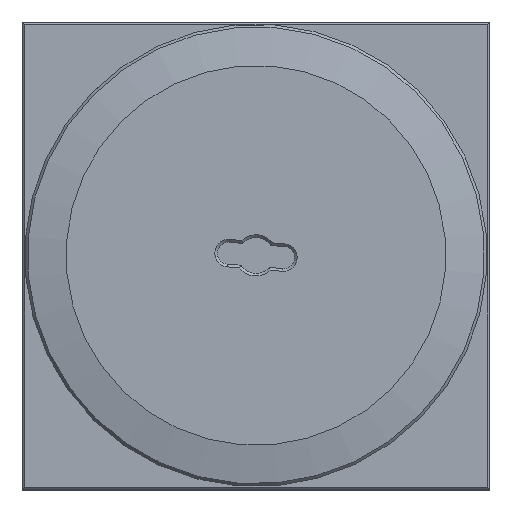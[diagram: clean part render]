
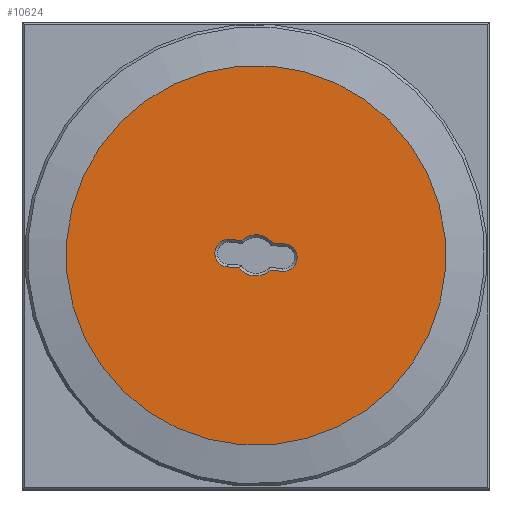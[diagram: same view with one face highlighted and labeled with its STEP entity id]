
A CAD part, top view. The second image highlights one B-rep face of the part: STEP entity #10624.
In plain terms, the highlighted planar face has unit normal (0, 0, 1).
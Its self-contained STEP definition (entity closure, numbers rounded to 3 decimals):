
#786=FACE_BOUND('',#3870,.T.);
#1016=PLANE('',#11739);
#1734=LINE('',#28254,#2439);
#1737=LINE('',#28275,#2442);
#1739=LINE('',#28287,#2444);
#1742=LINE('',#28305,#2447);
#2439=VECTOR('',#14273,10.);
#2442=VECTOR('',#14284,10.);
#2444=VECTOR('',#14294,10.);
#2447=VECTOR('',#14311,10.);
#3191=FACE_OUTER_BOUND('',#3869,.T.);
#3869=EDGE_LOOP('',(#9923));
#3870=EDGE_LOOP('',(#9924,#9925,#9926,#9927,#9928,#9929,#9930,#9931));
#4327=CIRCLE('',#11719,7.5);
#4329=CIRCLE('',#11723,5.);
#4332=CIRCLE('',#11728,7.5);
#4333=CIRCLE('',#11730,5.);
#4337=CIRCLE('',#11740,69.);
#5292=VERTEX_POINT('',#28251);
#5293=VERTEX_POINT('',#28253);
#5294=VERTEX_POINT('',#28260);
#5298=VERTEX_POINT('',#28272);
#5299=VERTEX_POINT('',#28274);
#5301=VERTEX_POINT('',#28282);
#5303=VERTEX_POINT('',#28292);
#5305=VERTEX_POINT('',#28300);
#5311=VERTEX_POINT('',#28326);
#6824=EDGE_CURVE('',#5292,#5293,#1734,.T.);
#6826=EDGE_CURVE('',#5293,#5294,#4327,.T.);
#6831=EDGE_CURVE('',#5298,#5299,#1737,.T.);
#6834=EDGE_CURVE('',#5301,#5298,#4329,.T.);
#6836=EDGE_CURVE('',#5294,#5301,#1739,.T.);
#6839=EDGE_CURVE('',#5299,#5303,#4332,.T.);
#6842=EDGE_CURVE('',#5305,#5292,#4333,.T.);
#6844=EDGE_CURVE('',#5303,#5305,#1742,.T.);
#6855=EDGE_CURVE('',#5311,#5311,#4337,.T.);
#9923=ORIENTED_EDGE('',*,*,#6855,.F.);
#9924=ORIENTED_EDGE('',*,*,#6831,.F.);
#9925=ORIENTED_EDGE('',*,*,#6834,.F.);
#9926=ORIENTED_EDGE('',*,*,#6836,.F.);
#9927=ORIENTED_EDGE('',*,*,#6826,.F.);
#9928=ORIENTED_EDGE('',*,*,#6824,.F.);
#9929=ORIENTED_EDGE('',*,*,#6842,.F.);
#9930=ORIENTED_EDGE('',*,*,#6844,.F.);
#9931=ORIENTED_EDGE('',*,*,#6839,.F.);
#10624=ADVANCED_FACE('',(#3191,#786),#1016,.T.);
#11719=AXIS2_PLACEMENT_3D('',#28261,#14276,#14277);
#11723=AXIS2_PLACEMENT_3D('',#28284,#14288,#14289);
#11728=AXIS2_PLACEMENT_3D('',#28293,#14300,#14301);
#11730=AXIS2_PLACEMENT_3D('',#28302,#14305,#14306);
#11739=AXIS2_PLACEMENT_3D('',#28325,#14332,#14333);
#11740=AXIS2_PLACEMENT_3D('',#28327,#14334,#14335);
#14273=DIRECTION('',(0.,-1.,0.));
#14276=DIRECTION('center_axis',(0.,0.,1.));
#14277=DIRECTION('ref_axis',(-0.615,0.788,0.));
#14284=DIRECTION('',(0.,1.,0.));
#14288=DIRECTION('center_axis',(0.,0.,1.));
#14289=DIRECTION('ref_axis',(0.,-1.,0.));
#14294=DIRECTION('',(0.,-1.,0.));
#14300=DIRECTION('center_axis',(0.,0.,1.));
#14301=DIRECTION('ref_axis',(0.615,-0.788,0.));
#14305=DIRECTION('center_axis',(0.,0.,1.));
#14306=DIRECTION('ref_axis',(0.,1.,0.));
#14311=DIRECTION('',(0.,1.,0.));
#14332=DIRECTION('center_axis',(0.,0.,1.));
#14333=DIRECTION('ref_axis',(1.,0.,0.));
#14334=DIRECTION('center_axis',(0.,0.,-1.));
#14335=DIRECTION('ref_axis',(-1.,0.,0.));
#28251=CARTESIAN_POINT('',(-5.,10.,5.));
#28253=CARTESIAN_POINT('',(-5.,5.59,5.));
#28254=CARTESIAN_POINT('',(-5.,2.562,5.));
#28260=CARTESIAN_POINT('',(-5.,-5.59,5.));
#28261=CARTESIAN_POINT('Origin',(0.,0.,5.));
#28272=CARTESIAN_POINT('',(5.,-10.,5.));
#28274=CARTESIAN_POINT('',(5.,-5.59,5.));
#28275=CARTESIAN_POINT('',(5.,-2.562,5.));
#28282=CARTESIAN_POINT('',(-5.,-10.,5.));
#28284=CARTESIAN_POINT('Origin',(0.,-10.,5.));
#28287=CARTESIAN_POINT('',(-5.,-5.,5.));
#28292=CARTESIAN_POINT('',(5.,5.59,5.));
#28293=CARTESIAN_POINT('Origin',(0.,0.,5.));
#28300=CARTESIAN_POINT('',(5.,10.,5.));
#28302=CARTESIAN_POINT('Origin',(0.,10.,5.));
#28305=CARTESIAN_POINT('',(5.,5.,5.));
#28325=CARTESIAN_POINT('Origin',(0.,0.,5.));
#28326=CARTESIAN_POINT('',(69.,0.,5.));
#28327=CARTESIAN_POINT('Origin',(0.,0.,5.));
